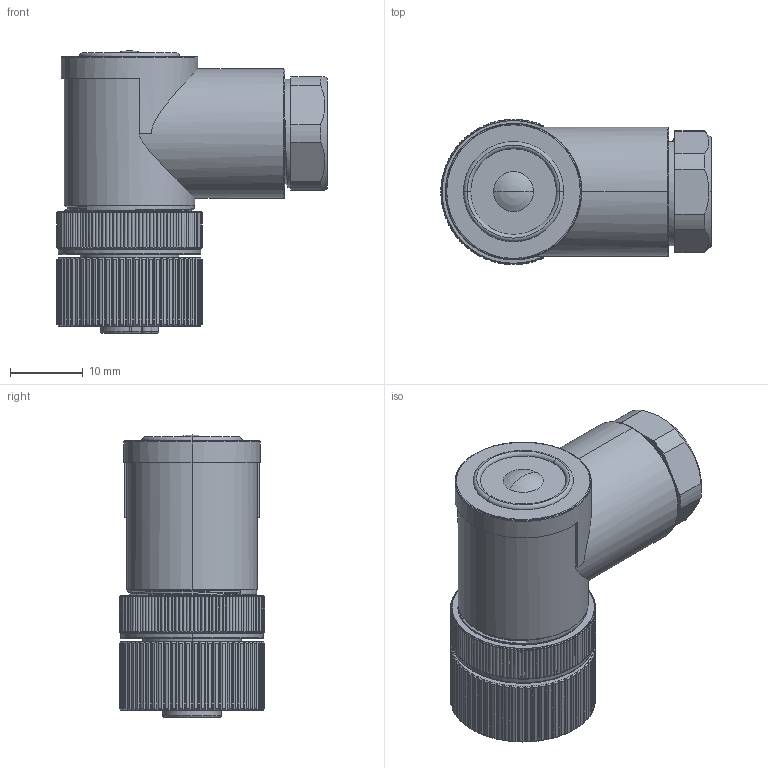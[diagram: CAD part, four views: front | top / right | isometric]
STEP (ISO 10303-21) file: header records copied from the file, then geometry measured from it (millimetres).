
FILE_DESCRIPTION((''),'2;1');
FILE_NAME('XC-M12-RWK-PG9','2025-06-21T14:37:07',('lyj'),(''),'CREO PARAMETRIC BY PTC INC, 2019010','CREO PARAMETRIC BY PTC INC, 2019010','');
FILE_SCHEMA(('CONFIG_CONTROL_DESIGN'));
Length unit declared in the file: millimetre
Products named in the file (1): XC-M12-RWK-PG9
Bounding box: 37.2 x 20 x 38.9 mm (x, y, z)
Volume: 9778.4 mm3; surface area: 12128.4 mm2
Topology: 2 solids, 11 shells, 1585 faces, 4284 edges, 2761 vertices
Faces by surface type: cylinder 609, cone 428, plane 418, bspline 49, torus 48, extrusion 29, sphere 4
Entity records: 80609 total; most frequent: CARTESIAN_POINT 42440, ORIENTED_EDGE 8560, DIRECTION 7310, EDGE_CURVE 4280, AXIS2_PLACEMENT_3D 2931, VERTEX_POINT 2761, EDGE_LOOP 1667, FACE_OUTER_BOUND 1585
